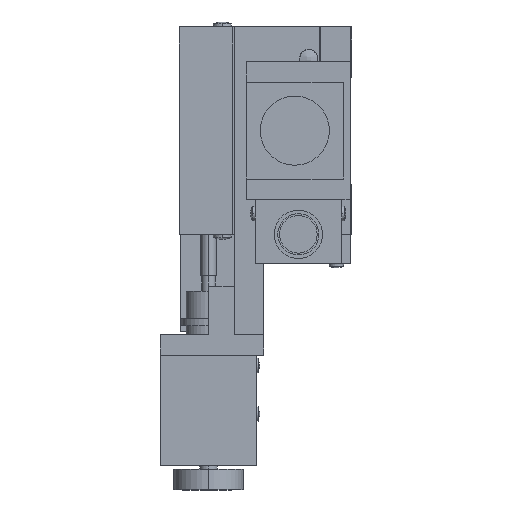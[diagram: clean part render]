
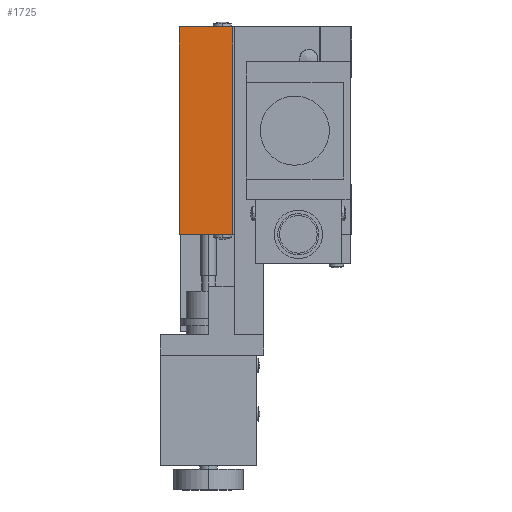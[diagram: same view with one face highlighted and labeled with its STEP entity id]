
A CAD part, left-side view. The second image highlights one B-rep face of the part: STEP entity #1725.
In plain terms, the highlighted planar face has unit normal (-1, 0, 0).
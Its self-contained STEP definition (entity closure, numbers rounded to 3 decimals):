
#1508 = EDGE_CURVE ( 'NONE', #1509, #1516, #15482, .T. ) ;
#1509 = VERTEX_POINT ( 'NONE', #15485 ) ;
#1516 = VERTEX_POINT ( 'NONE', #15478 ) ;
#1724 = EDGE_CURVE ( 'NONE', #5866, #1509, #15833, .T. ) ;
#1725 = ADVANCED_FACE ( 'NONE', ( #15782 ), #15845, .F. ) ;
#1804 = EDGE_LOOP ( 'NONE', ( #1834, #1851, #5634, #5567 ) ) ;
#1834 = ORIENTED_EDGE ( 'NONE', *, *, #1508, .T. ) ;
#1851 = ORIENTED_EDGE ( 'NONE', *, *, #1964, .F. ) ;
#1964 = EDGE_CURVE ( 'NONE', #5881, #1516, #16190, .T. ) ;
#5567 = ORIENTED_EDGE ( 'NONE', *, *, #1724, .T. ) ;
#5634 = ORIENTED_EDGE ( 'NONE', *, *, #5878, .F. ) ;
#5866 = VERTEX_POINT ( 'NONE', #9379 ) ;
#5878 = EDGE_CURVE ( 'NONE', #5866, #5881, #9410, .T. ) ;
#5881 = VERTEX_POINT ( 'NONE', #9369 ) ;
#9369 = CARTESIAN_POINT ( 'NONE',  ( -30., 50., -60. ) ) ;
#9379 = CARTESIAN_POINT ( 'NONE',  ( -30., 34.5, -60. ) ) ;
#9401 = DIRECTION ( 'NONE',  ( 0., 1., 0. ) ) ;
#9402 = VECTOR ( 'NONE', #9401, 1000. ) ;
#9403 = CARTESIAN_POINT ( 'NONE',  ( -30., 50., -60. ) ) ;
#9410 = LINE ( 'NONE', #9403, #9402 ) ;
#15478 = CARTESIAN_POINT ( 'NONE',  ( -30., 50., 0. ) ) ;
#15479 = DIRECTION ( 'NONE',  ( 0., 1., 0. ) ) ;
#15480 = VECTOR ( 'NONE', #15479, 1000. ) ;
#15481 = CARTESIAN_POINT ( 'NONE',  ( -30., 50., 0. ) ) ;
#15482 = LINE ( 'NONE', #15481, #15480 ) ;
#15485 = CARTESIAN_POINT ( 'NONE',  ( -30., 34.5, 0. ) ) ;
#15778 = DIRECTION ( 'NONE',  ( 1., 0., 0. ) ) ;
#15779 = CARTESIAN_POINT ( 'NONE',  ( -30., 50., -60. ) ) ;
#15782 = FACE_OUTER_BOUND ( 'NONE', #1804, .T. ) ;
#15790 = AXIS2_PLACEMENT_3D ( 'NONE', #15779, #15778, #15824 ) ;
#15824 = DIRECTION ( 'NONE',  ( 0., -1., 0. ) ) ;
#15830 = DIRECTION ( 'NONE',  ( 0., 0., 1. ) ) ;
#15831 = VECTOR ( 'NONE', #15830, 1000. ) ;
#15832 = CARTESIAN_POINT ( 'NONE',  ( -30., 34.5, -60. ) ) ;
#15833 = LINE ( 'NONE', #15832, #15831 ) ;
#15845 = PLANE ( 'NONE',  #15790 ) ;
#16166 = VECTOR ( 'NONE', #16186, 1000. ) ;
#16186 = DIRECTION ( 'NONE',  ( 0., 0., 1. ) ) ;
#16187 = CARTESIAN_POINT ( 'NONE',  ( -30., 50., -60. ) ) ;
#16190 = LINE ( 'NONE', #16187, #16166 ) ;
